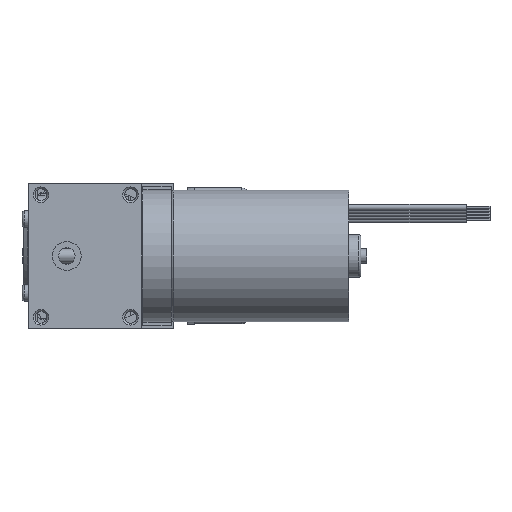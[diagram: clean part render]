
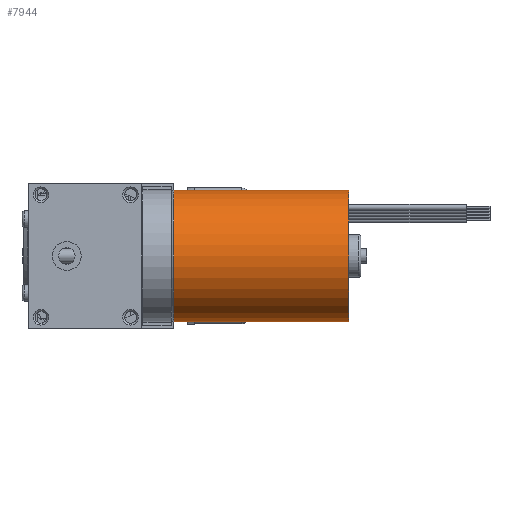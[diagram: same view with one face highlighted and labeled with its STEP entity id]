
A CAD part, front view. The second image highlights one B-rep face of the part: STEP entity #7944.
In plain terms, the highlighted cylindrical face has radius 13.95 mm (diameter 27.9 mm), a full revolution.
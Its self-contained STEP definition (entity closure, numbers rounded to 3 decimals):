
#949 = AXIS2_PLACEMENT_3D ( 'NONE', #8664, #28213, #8349 ) ;
#2508 = DIRECTION ( 'NONE',  ( -1., 0., 0. ) ) ;
#4253 = ORIENTED_EDGE ( 'NONE', *, *, #27548, .T. ) ;
#4473 = DIRECTION ( 'NONE',  ( -1., 0., 0. ) ) ;
#4961 = CARTESIAN_POINT ( 'NONE',  ( 52.5, 0., 0. ) ) ;
#7944 = ADVANCED_FACE ( 'NONE', ( #27422, #24981 ), #24810, .T. ) ;
#8349 = DIRECTION ( 'NONE',  ( 0., 0.5, 0.866 ) ) ;
#8664 = CARTESIAN_POINT ( 'NONE',  ( 15.4, 0., 0. ) ) ;
#8861 = EDGE_LOOP ( 'NONE', ( #4253 ) ) ;
#9962 = DIRECTION ( 'NONE',  ( 0., -0.5, -0.866 ) ) ;
#14899 = CIRCLE ( 'NONE', #949, 13.95 ) ;
#16946 = DIRECTION ( 'NONE',  ( 0., -0.5, -0.866 ) ) ;
#19430 = CIRCLE ( 'NONE', #29817, 13.95 ) ;
#19632 = VERTEX_POINT ( 'NONE', #23523 ) ;
#19858 = ORIENTED_EDGE ( 'NONE', *, *, #24292, .T. ) ;
#22033 = VERTEX_POINT ( 'NONE', #31842 ) ;
#23523 = CARTESIAN_POINT ( 'NONE',  ( 52.5, -6.975, -12.081 ) ) ;
#24292 = EDGE_CURVE ( 'NONE', #19632, #19632, #19430, .T. ) ;
#24338 = AXIS2_PLACEMENT_3D ( 'NONE', #24652, #2508, #9962 ) ;
#24652 = CARTESIAN_POINT ( 'NONE',  ( -16.6, 0., 0. ) ) ;
#24810 = CYLINDRICAL_SURFACE ( 'NONE', #24338, 13.95 ) ;
#24981 = FACE_OUTER_BOUND ( 'NONE', #27516, .T. ) ;
#27422 = FACE_OUTER_BOUND ( 'NONE', #8861, .T. ) ;
#27516 = EDGE_LOOP ( 'NONE', ( #19858 ) ) ;
#27548 = EDGE_CURVE ( 'NONE', #22033, #22033, #14899, .T. ) ;
#28213 = DIRECTION ( 'NONE',  ( 1., 0., 0. ) ) ;
#29817 = AXIS2_PLACEMENT_3D ( 'NONE', #4961, #4473, #16946 ) ;
#31842 = CARTESIAN_POINT ( 'NONE',  ( 15.4, 6.975, 12.081 ) ) ;
